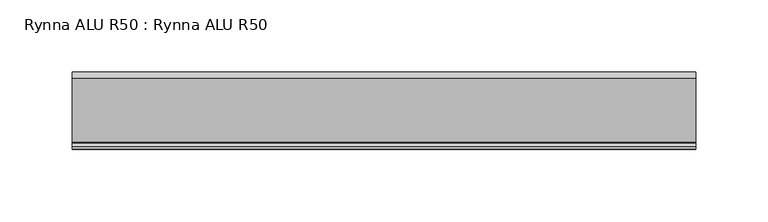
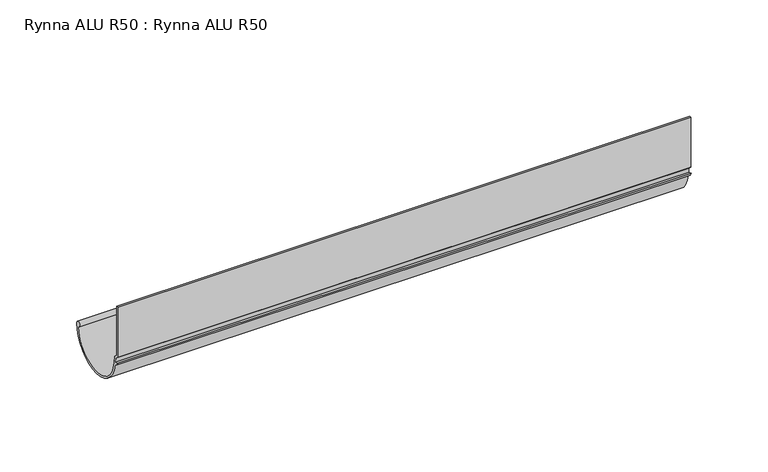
"""IFC4 building model written with IfcOpenShell, lengths in millimetres: proxy geometry, Rynna ALU R50 : Rynna ALU R50."""

from ifc_helpers import new_model, si_unit, point, frame, frame_2d, origin, place, context, project, spatial, polyline, circle_curve, trimmed, segment, composite_curve, outline, extrude, source, transform, mapped, element, save


def rynna_alu_r50_rynna_alu_r50_866323d3(model_context):
    return source(origin(), model_context, "Body", "SweptSolid", [
        extrude(outline(composite_curve([segment(polyline([(-0.6978396, 0.0), (0.7021617, 0.0), (0.7021617, -38.7702547), (3.0707013, -41.065916), (3.9370468, -46.8196069)]), True, "CONTINUOUS"), segment(trimmed(circle_curve(frame_2d((27.3646611, -44.302303)), 23.5624686), [point((3.9370468, -46.8196069))], [point((50.8512717, -46.1914952))], True, "CARTESIAN"), True, "CONTINUOUS"), segment(trimmed(circle_curve(frame_2d((50.3771937, -44.3000011)), 1.95), [point((50.8512717, -46.1914952))], [point((52.3271923, -44.302303))], False, "CARTESIAN"), True, "CONTINUOUS"), segment(trimmed(circle_curve(frame_2d((27.3646611, -44.302303)), 24.9625312), [point((52.3271923, -44.302303))], [point((2.6292486, -47.6619658))], False, "CARTESIAN"), True, "CONTINUOUS"), segment(polyline([(2.6292486, -47.6619658), (-0.1767814, -46.0765907), (-0.9565767, -44.1281649), (2.328284, -45.5225054), (1.8149767, -41.8701356), (-0.6978396, -39.5252625), (-0.6978396, 0.0)]), True, "CONTINUOUS")], self_intersect=False)), frame((-215.1003775, 0.0, 0.0), z_axis=(1.0, 0.0, 0.0), x_axis=(0.0, 1.0, 0.0)), (0.0, 0.0, 1.0), 430.200755),
    ])


if __name__ == "__main__":
    model = new_model("IFC4")
    model_context = context("Model", 3, world=origin())
    ifc_project = project(units=[si_unit("LENGTHUNIT", "METRE", prefix="MILLI")], contexts=[model_context])
    site = spatial("IfcSite", under=ifc_project)
    building = spatial("IfcBuilding", under=site)
    placement = place(None, origin())
    rynna_alu_r50_rynna_alu_r50_shape = rynna_alu_r50_rynna_alu_r50_866323d3(model_context)
    element("IfcBuildingElementProxy", 1, Name="Rynna ALU R50 : Rynna ALU R50", ObjectType="Rynna ALU R50 : Rynna ALU R50", at=placement, inside=building, context=model_context, shape_type="MappedRepresentation", body=[
        mapped(rynna_alu_r50_rynna_alu_r50_shape, transform((0.0, 0.0, 0.0), x_axis=(1.0, 0.0, 0.0), y_axis=(0.0, 1.0, 0.0), z_axis=(0.0, 0.0, 1.0))),
    ])
    save(model, "model.ifc")
